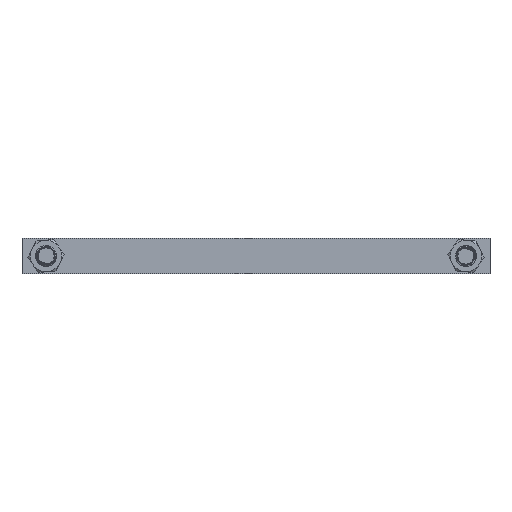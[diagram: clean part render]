
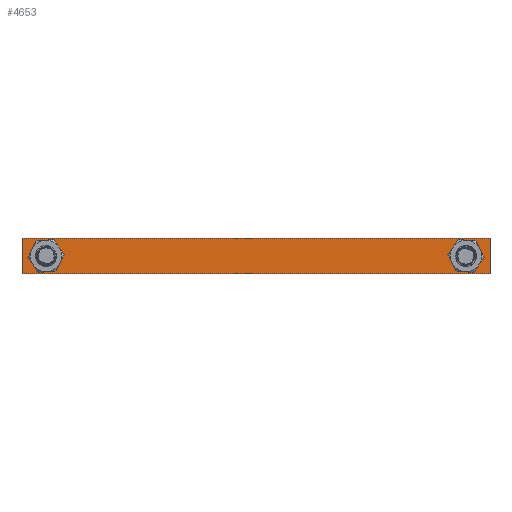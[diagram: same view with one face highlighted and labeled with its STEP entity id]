
A CAD part, front view. The second image highlights one B-rep face of the part: STEP entity #4653.
In plain terms, the highlighted planar face has unit normal (0, -1, 0).
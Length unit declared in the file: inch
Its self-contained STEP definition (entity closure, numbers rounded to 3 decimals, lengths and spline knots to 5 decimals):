
#182 = EDGE_CURVE ( 'Edge10', #10729, #8818, #12450, .T. ) ;
#491 = PLANE ( 'NONE',  #6765 ) ;
#821 = EDGE_LOOP ( 'NONE', ( #1492, #16255, #17085, #2146 ) ) ;
#915 = DIRECTION ( 'NONE',  ( -1., 0., 0. ) ) ;
#1052 = AXIS2_PLACEMENT_3D ( 'NONE', #3633, #5114, #14886 ) ;
#1492 = ORIENTED_EDGE ( 'NONE', *, *, #12068, .T. ) ;
#1842 = EDGE_CURVE ( 'Edge12', #6772, #11919, #8470, .T. ) ;
#2146 = ORIENTED_EDGE ( 'NONE', *, *, #182, .F. ) ;
#2590 = DIRECTION ( 'NONE',  ( 1., 0., 0. ) ) ;
#3167 = EDGE_LOOP ( 'NONE', ( #4665, #9396 ) ) ;
#3351 = DIRECTION ( 'NONE',  ( 0., 0., -1. ) ) ;
#3384 = LINE ( 'NONE', #9077, #10595 ) ;
#3551 = FACE_BOUND ( 'NONE', #3167, .T. ) ;
#3633 = CARTESIAN_POINT ( 'NONE',  ( 1., 0.05, 0. ) ) ;
#3788 = VERTEX_POINT ( 'NONE', #18300 ) ;
#3808 = CIRCLE ( 'NONE', #15693, 0.5 ) ;
#4415 = VECTOR ( 'NONE', #915, 39.37008 ) ;
#4653 = ADVANCED_FACE ( 'Face6', ( #3551, #9238, #10417 ), #491, .T. ) ;
#4665 = ORIENTED_EDGE ( 'NONE', *, *, #18352, .T. ) ;
#5114 = DIRECTION ( 'NONE',  ( 0., 1., 0. ) ) ;
#6155 = CARTESIAN_POINT ( 'NONE',  ( 0., 0.05, 0. ) ) ;
#6765 = AXIS2_PLACEMENT_3D ( 'NONE', #6155, #16116, #3351 ) ;
#6772 = VERTEX_POINT ( 'NONE', #7193 ) ;
#6894 = DIRECTION ( 'NONE',  ( 0., 0., -1. ) ) ;
#6976 = CARTESIAN_POINT ( 'NONE',  ( 18.5, 0.05, 0. ) ) ;
#7193 = CARTESIAN_POINT ( 'NONE',  ( 1., 0.05, 0.5 ) ) ;
#7765 = EDGE_CURVE ( 'Edge12', #11919, #6772, #3808, .T. ) ;
#8172 = CARTESIAN_POINT ( 'NONE',  ( 1., 0.05, 0. ) ) ;
#8449 = DIRECTION ( 'NONE',  ( 0., 1., 0. ) ) ;
#8454 = ORIENTED_EDGE ( 'NONE', *, *, #1842, .T. ) ;
#8470 = CIRCLE ( 'NONE', #1052, 0.5 ) ;
#8818 = VERTEX_POINT ( 'NONE', #15815 ) ;
#9077 = CARTESIAN_POINT ( 'NONE',  ( 0., 0.05, 0. ) ) ;
#9238 = FACE_OUTER_BOUND ( 'NONE', #821, .T. ) ;
#9373 = ORIENTED_EDGE ( 'NONE', *, *, #7765, .T. ) ;
#9396 = ORIENTED_EDGE ( 'NONE', *, *, #18000, .T. ) ;
#9528 = CIRCLE ( 'NONE', #11863, 0.5 ) ;
#9587 = CARTESIAN_POINT ( 'NONE',  ( 19.5, 0.05, 0.875 ) ) ;
#10031 = EDGE_CURVE ( 'Edge6', #11717, #15122, #3384, .T. ) ;
#10417 = FACE_BOUND ( 'NONE', #14856, .T. ) ;
#10454 = DIRECTION ( 'NONE',  ( 0., 0., 1. ) ) ;
#10498 = VECTOR ( 'NONE', #6894, 39.37008 ) ;
#10595 = VECTOR ( 'NONE', #14736, 39.37008 ) ;
#10729 = VERTEX_POINT ( 'NONE', #16785 ) ;
#11035 = DIRECTION ( 'NONE',  ( 0., 0., 1. ) ) ;
#11106 = DIRECTION ( 'NONE',  ( 0., 0., -1. ) ) ;
#11272 = AXIS2_PLACEMENT_3D ( 'NONE', #6976, #8449, #11035 ) ;
#11717 = VERTEX_POINT ( 'NONE', #15804 ) ;
#11863 = AXIS2_PLACEMENT_3D ( 'NONE', #15037, #11938, #10454 ) ;
#11919 = VERTEX_POINT ( 'NONE', #15620 ) ;
#11938 = DIRECTION ( 'NONE',  ( 0., 1., 0. ) ) ;
#12068 = EDGE_CURVE ( 'NONE', #10729, #11717, #15234, .T. ) ;
#12450 = LINE ( 'NONE', #9587, #10498 ) ;
#12612 = CARTESIAN_POINT ( 'NONE',  ( 0., 0.05, -0.74833 ) ) ;
#13072 = CIRCLE ( 'NONE', #11272, 0.5 ) ;
#13213 = EDGE_CURVE ( 'Edge13', #15122, #8818, #16390, .T. ) ;
#13300 = CARTESIAN_POINT ( 'NONE',  ( 18.5, 0.05, -0.5 ) ) ;
#14302 = CARTESIAN_POINT ( 'NONE',  ( 19.5, 0.05, -0.74833 ) ) ;
#14736 = DIRECTION ( 'NONE',  ( 0., 0., -1. ) ) ;
#14856 = EDGE_LOOP ( 'NONE', ( #9373, #8454 ) ) ;
#14886 = DIRECTION ( 'NONE',  ( 0., 0., -1. ) ) ;
#15037 = CARTESIAN_POINT ( 'NONE',  ( 18.5, 0.05, 0. ) ) ;
#15122 = VERTEX_POINT ( 'NONE', #12612 ) ;
#15234 = LINE ( 'NONE', #15320, #4415 ) ;
#15320 = CARTESIAN_POINT ( 'NONE',  ( 19.5, 0.05, 0.74833 ) ) ;
#15620 = CARTESIAN_POINT ( 'NONE',  ( 1., 0.05, -0.5 ) ) ;
#15693 = AXIS2_PLACEMENT_3D ( 'NONE', #8172, #18032, #11106 ) ;
#15804 = CARTESIAN_POINT ( 'NONE',  ( 0., 0.05, 0.74833 ) ) ;
#15815 = CARTESIAN_POINT ( 'NONE',  ( 19.5, 0.05, -0.74833 ) ) ;
#16116 = DIRECTION ( 'NONE',  ( 0., -1., 0. ) ) ;
#16255 = ORIENTED_EDGE ( 'NONE', *, *, #10031, .T. ) ;
#16390 = LINE ( 'NONE', #14302, #17482 ) ;
#16419 = VERTEX_POINT ( 'NONE', #13300 ) ;
#16785 = CARTESIAN_POINT ( 'NONE',  ( 19.5, 0.05, 0.74833 ) ) ;
#17085 = ORIENTED_EDGE ( 'NONE', *, *, #13213, .T. ) ;
#17482 = VECTOR ( 'NONE', #2590, 39.37008 ) ;
#18000 = EDGE_CURVE ( 'Edge7', #3788, #16419, #13072, .T. ) ;
#18032 = DIRECTION ( 'NONE',  ( 0., 1., 0. ) ) ;
#18300 = CARTESIAN_POINT ( 'NONE',  ( 18.5, 0.05, 0.5 ) ) ;
#18352 = EDGE_CURVE ( 'Edge7', #16419, #3788, #9528, .T. ) ;
